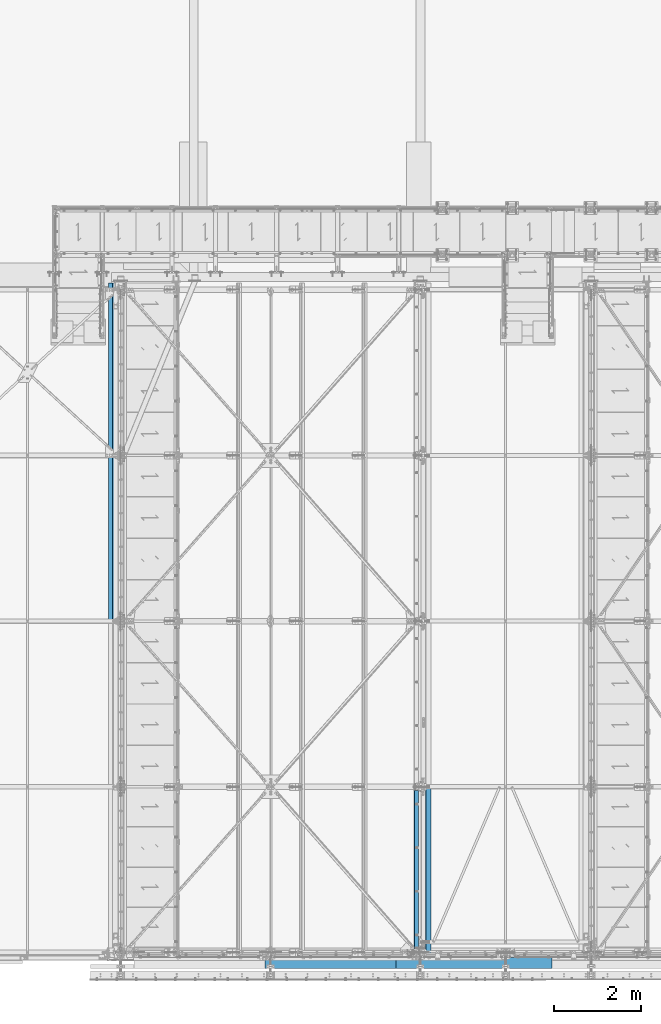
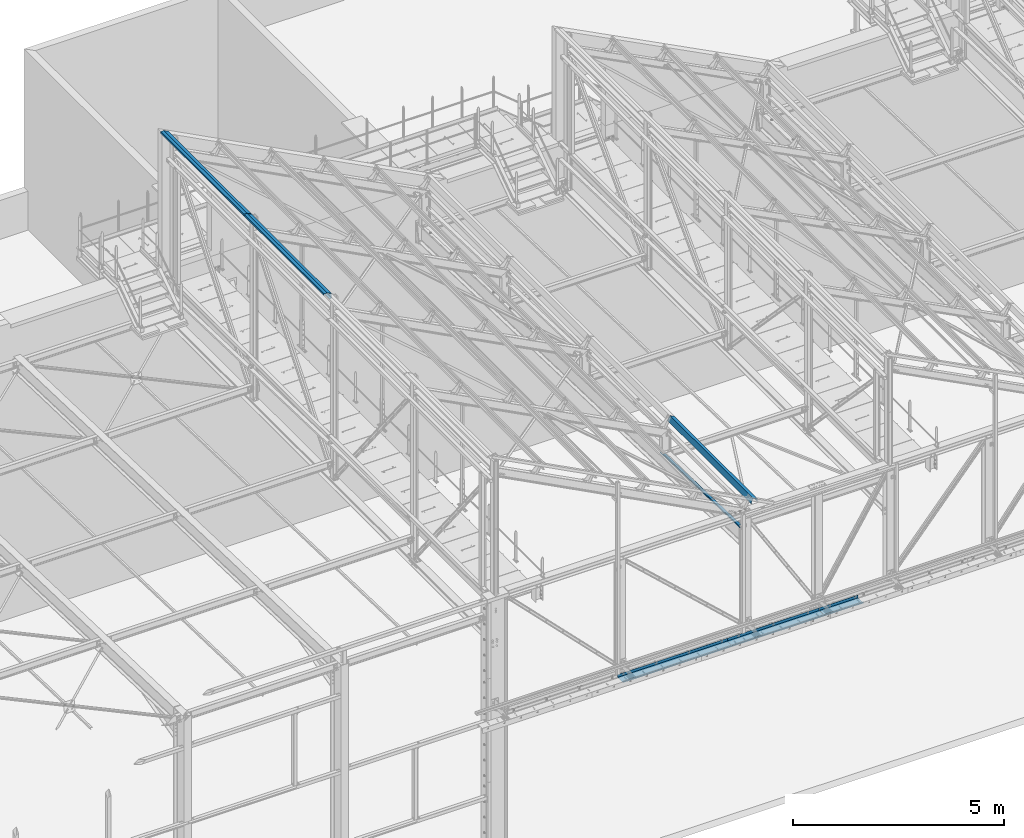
# One storey, part 345 of 362: 7 beams, 7 elements without a shape of their own.
"""IFC2X3 building model written with IfcOpenShell, lengths in millimetres."""

from ifc_helpers import new_model, si_unit, frame, origin_with_axes, place, context, subcontext, project, spatial, faceted_brep, material, type_object, element, aggregate, save


model = new_model("IFC2X3")

# Units and contexts
model_context = context("Model", 3, precision=1e-05, world=origin_with_axes())
body_context = subcontext(model_context, "Body", "Model", "MODEL_VIEW")
ifc_project = project(units=[si_unit("LENGTHUNIT", "METRE", prefix="MILLI"), si_unit("AREAUNIT", "SQUARE_METRE"), si_unit("VOLUMEUNIT", "CUBIC_METRE"), si_unit("MASSUNIT", "GRAM", prefix="KILO"), si_unit("TIMEUNIT", "SECOND"), si_unit("PLANEANGLEUNIT", "RADIAN"), si_unit("SOLIDANGLEUNIT", "STERADIAN"), si_unit("THERMODYNAMICTEMPERATUREUNIT", "DEGREE_CELSIUS"), si_unit("LUMINOUSINTENSITYUNIT", "LUMEN")], contexts=[model_context])

# Site, building, storey
site_placement = place(None, origin_with_axes())
site = spatial("IfcSite", under=ifc_project, at=site_placement, Name="Undefined", CompositionType="ELEMENT")
building_placement = place(site_placement, origin_with_axes())
building = spatial("IfcBuilding", under=site, at=building_placement, Name="Undefined", CompositionType="ELEMENT")
storey_placement = place(building_placement, origin_with_axes())
storey = spatial("IfcBuildingStorey", under=building, at=storey_placement, Name="Undefined", CompositionType="ELEMENT", Elevation=0.0)

# Assembly, beam
assembly_1_placement = place(storey_placement, origin_with_axes())
assembly_1 = element("IfcElementAssembly", 1, at=assembly_1_placement, inside=storey, Name="PANNE SHED", AssemblyPlace="NOTDEFINED", PredefinedType="NOTDEFINED")
ifc_material = material(Name="Undefined/S235-E24")
beam_type_1 = type_object("IfcBeamType", Name="PL3*3790", PredefinedType="NOTDEFINED")
beam_1_placement = place(assembly_1_placement, frame((12404.99999895, 9499.99999584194, 12628.7260697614), z_axis=(0.0, 1.0, 0.0), x_axis=(0.0, 0.0, 1.0)))
beam_1 = element("IfcBeam", 2, at=beam_1_placement, type_object=beam_type_1, material=ifc_material, Name="PANNE SHED", ObjectType="PL3*3790", context=body_context, shape_type="Brep", body=[
    faceted_brep([(-3.49427864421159e-08, -1.49999999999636, -1895.0), (-3.52956703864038e-08, -1.5, 1895.0), (3.49573383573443e-08, 1.5, 1895.0), (3.53102223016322e-08, 1.5, -1895.0), (47.0000011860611, 1.49999889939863, 1895.0), (47.0000011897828, 1.49999889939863, -1895.0), (50.0000011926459, -1.50000117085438, -1895.0), (50.0000011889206, -1.50000117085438, 1895.0), (47.0, 83.711228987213, 1895.0), (47.0, 83.711228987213, -1895.0), (50.0, 84.4485168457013, -1895.0), (50.0, 84.4485168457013, 1895.0), (-16.7103107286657, 205.5, 1895.0), (-16.7103107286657, 205.5, -1895.0), (-14.8939838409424, 208.5, -1895.0), (-14.8939838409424, 208.5, 1895.0), (-151.893997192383, 205.5, 1895.0), (-151.893997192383, 205.5, -1895.0), (-154.893997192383, 208.5, -1895.0), (-154.893997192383, 208.5, 1895.0), (-151.893997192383, 158.5, 1895.0), (-151.893997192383, 158.5, -1895.0), (-154.893997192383, 158.5, 1895.0), (-154.893997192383, 158.5, -1895.0)], [[[0, 1, 2, 3]], [[3, 2, 4, 5]], [[1, 0, 6, 7]], [[5, 4, 8, 9]], [[7, 6, 10, 11]], [[9, 8, 12, 13]], [[11, 10, 14, 15]], [[13, 12, 16, 17]], [[15, 14, 18, 19]], [[17, 16, 20, 21]], [[16, 12, 8, 4, 2, 1, 7, 11, 15, 19, 22, 20]], [[19, 18, 23, 22]], [[18, 14, 10, 6, 0, 3, 5, 9, 13, 17, 21, 23]], [[22, 23, 21, 20]]]),
])
aggregate(assembly_1, [beam_1])

assembly_2_placement = place(storey_placement, origin_with_axes())
assembly_2 = element("IfcElementAssembly", 3, at=assembly_2_placement, inside=storey, Name="SUPPORT", AssemblyPlace="NOTDEFINED", PredefinedType="NOTDEFINED")
beam_type_2 = type_object("IfcBeamType", Name="PL3*1055", PredefinedType="NOTDEFINED")
beam_2_placement = place(assembly_2_placement, frame((22042.5, -111.5, 5080.00085614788), z_axis=(1.0, 0.0, 0.0), x_axis=(0.0, 0.0, -1.0)))
beam_2 = element("IfcBeam", 4, at=beam_2_placement, type_object=beam_type_2, material=ifc_material, Name="SUPPORT CHARGE BARDAG", ObjectType="PL3*1055", context=body_context, shape_type="Brep", body=[
    faceted_brep([(0.0, -1.5, -527.5), (0.0, -1.5, 527.5), (0.0, 1.5, 527.5), (0.0, 1.5, -527.5), (80.0, 1.5, 527.5), (80.0, 1.5, -527.5), (77.0, -1.5, -527.5), (77.0, -1.5, 527.5), (80.0, -258.5, 527.5), (80.0, -258.5, -527.5), (77.0, -255.5, -527.5), (77.0, -255.5, 527.5), (30.0000019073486, -258.5, 527.5), (30.0000019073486, -258.5, -527.5), (30.0000019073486, -255.5, 527.5), (30.0000019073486, -255.5, -527.5)], [[[0, 1, 2, 3]], [[3, 2, 4, 5]], [[1, 0, 6, 7]], [[5, 4, 8, 9]], [[7, 6, 10, 11]], [[9, 8, 12, 13]], [[8, 4, 2, 1, 7, 11, 14, 12]], [[11, 10, 15, 14]], [[10, 6, 0, 3, 5, 9, 13, 15]], [[14, 15, 13, 12]]]),
])
aggregate(assembly_2, [beam_2])

assembly_3_placement = place(storey_placement, origin_with_axes())
assembly_3 = element("IfcElementAssembly", 5, at=assembly_3_placement, inside=storey, Name="SUPPORT", AssemblyPlace="NOTDEFINED", PredefinedType="NOTDEFINED")
beam_type_3 = type_object("IfcBeamType", Name="PL3*3000", PredefinedType="NOTDEFINED")
beam_3_placement = place(assembly_3_placement, frame((17489.9999999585, -111.5, 5080.00085614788), z_axis=(1.0, 0.0, 0.0), x_axis=(0.0, 0.0, -1.0)))
beam_3 = element("IfcBeam", 6, at=beam_3_placement, type_object=beam_type_3, material=ifc_material, Name="SUPPORT CHARGE BARDAG", ObjectType="PL3*3000", context=body_context, shape_type="Brep", body=[
    faceted_brep([(0.0, -1.5, -1500.0), (0.0, -1.5, 1500.0), (0.0, 1.5, 1500.0), (0.0, 1.5, -1500.0), (80.0, 1.5, 1500.0), (80.0, 1.5, -1500.0), (77.0, -1.5, -1500.0), (77.0, -1.5, 1500.0), (80.0, -258.5, 1500.0), (80.0, -258.5, -1500.0), (77.0, -255.5, -1500.0), (77.0, -255.5, 1500.0), (30.0000019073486, -258.5, 1500.0), (30.0000019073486, -258.5, -1500.0), (30.0000019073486, -255.5, 1500.0), (30.0000019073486, -255.5, -1500.0)], [[[0, 1, 2, 3]], [[3, 2, 4, 5]], [[1, 0, 6, 7]], [[5, 4, 8, 9]], [[7, 6, 10, 11]], [[9, 8, 12, 13]], [[8, 4, 2, 1, 7, 11, 14, 12]], [[11, 10, 15, 14]], [[10, 6, 0, 3, 5, 9, 13, 15]], [[14, 15, 13, 12]]]),
])
aggregate(assembly_3, [beam_3])

assembly_4_placement = place(storey_placement, origin_with_axes())
assembly_4 = element("IfcElementAssembly", 7, at=assembly_4_placement, inside=storey, Name="SUPPORT", AssemblyPlace="NOTDEFINED", PredefinedType="NOTDEFINED")
beam_type_4 = type_object("IfcBeamType", Name="PL3*2515", PredefinedType="NOTDEFINED")
beam_4_placement = place(assembly_4_placement, frame((20247.4999999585, -111.5, 5080.00085614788), z_axis=(1.0, 0.0, 0.0), x_axis=(0.0, 0.0, -1.0)))
beam_4 = element("IfcBeam", 8, at=beam_4_placement, type_object=beam_type_4, material=ifc_material, Name="SUPPORT CHARGE BARDAG", ObjectType="PL3*2515", context=body_context, shape_type="Brep", body=[
    faceted_brep([(0.0, -1.5, -1257.5), (0.0, -1.5, 1257.5), (0.0, 1.5, 1257.5), (0.0, 1.5, -1257.5), (80.0, 1.5, 1257.5), (80.0, 1.5, -1257.5), (77.0, -1.5, -1257.5), (77.0, -1.5, 1257.5), (80.0, -258.5, 1257.5), (80.0, -258.5, -1257.5), (77.0, -255.5, -1257.5), (77.0, -255.5, 1257.5), (30.0000019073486, -258.5, 1257.5), (30.0000019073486, -258.5, -1257.5), (30.0000019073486, -255.5, 1257.5), (30.0000019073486, -255.5, -1257.5)], [[[0, 1, 2, 3]], [[3, 2, 4, 5]], [[1, 0, 6, 7]], [[5, 4, 8, 9]], [[7, 6, 10, 11]], [[9, 8, 12, 13]], [[8, 4, 2, 1, 7, 11, 14, 12]], [[11, 10, 15, 14]], [[10, 6, 0, 3, 5, 9, 13, 15]], [[14, 15, 13, 12]]]),
])
aggregate(assembly_4, [beam_4])

assembly_5_placement = place(storey_placement, origin_with_axes())
assembly_5 = element("IfcElementAssembly", 9, at=assembly_5_placement, inside=storey, Name="POUTRE", AssemblyPlace="NOTDEFINED", PredefinedType="NOTDEFINED")
beam_type_5 = type_object("IfcBeamType", Name="PL2*4000", PredefinedType="NOTDEFINED")
beam_5_placement = place(assembly_5_placement, frame((19509.9999999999, 1899.71695009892, 7991.29997216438), z_axis=(3.14103090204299e-11, 0.999506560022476, -0.0314107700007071), x_axis=(-1.0, 0.0, 0.0)))
beam_5 = element("IfcBeam", 10, at=beam_5_placement, type_object=beam_type_5, material=ifc_material, Name="POUTRE", ObjectType="PL2*4000", context=body_context, shape_type="Brep", body=[
    faceted_brep([(84.9999999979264, 0.999999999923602, 1895.93800542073), (84.9999999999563, 0.999999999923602, 1815.93800543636), (84.9999999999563, -1.00000000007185, 1815.93800543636), (84.9999999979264, -1.00000000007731, 1895.93800542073), (7.27595761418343e-12, 1.00000000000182, 1815.93800543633), (0.0, -0.999999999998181, 1815.93800543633), (97.9999999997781, 39.0000003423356, -1895.93800544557), (97.9999999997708, 0.999999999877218, -1895.93800544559), (97.9999999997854, 0.999999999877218, 1895.93800542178), (97.9999999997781, 39.0000003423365, 1895.9380054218), (99.9999999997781, 39.0000003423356, -1895.93800544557), (99.9999999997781, 39.0000003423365, 1895.9380054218), (99.9999999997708, -1.00000000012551, -1895.93800544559), (99.9999999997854, -1.0000000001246, 1895.93800542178), (85.0000000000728, -1.00000000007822, -1895.93800544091), (85.0000000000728, 0.999999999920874, -1895.9380054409), (84.9999999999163, -1.00000000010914, -1775.9380054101), (84.9999999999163, 0.999999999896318, -1775.93800948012), (0.0, 1.00000000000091, -1775.93800948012), (-3.63797880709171e-12, -1.0, -1775.9380054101)], [[[0, 1, 2, 3]], [[4, 5, 2, 1]], [[6, 7, 8, 9]], [[10, 6, 9, 11]], [[12, 10, 11, 13]], [[7, 6, 10, 12, 14, 15]], [[15, 14, 16, 17]], [[18, 17, 16, 19]], [[0, 8, 7, 15, 17, 18, 4, 1]], [[13, 11, 9, 8, 0, 3]], [[19, 16, 14, 12, 13, 3, 2, 5]], [[18, 19, 5, 4]]]),
])
aggregate(assembly_5, [beam_5])

assembly_6_placement = place(storey_placement, origin_with_axes())
assembly_6 = element("IfcElementAssembly", 11, at=assembly_6_placement, inside=storey, Name="PANNE SHED", AssemblyPlace="NOTDEFINED", PredefinedType="NOTDEFINED")
beam_type_6 = type_object("IfcBeamType", Name="PL3*3950", PredefinedType="NOTDEFINED")
beam_6_placement = place(assembly_6_placement, frame((19656.0539262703, 1820.00010459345, 8773.41543702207), z_axis=(0.0, 1.0, 0.0), x_axis=(-0.886081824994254, 0.0, 0.463528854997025)))
beam_6 = element("IfcBeam", 12, at=beam_6_placement, type_object=beam_type_6, material=ifc_material, Name="PANNE SHED", ObjectType="PL3*3950", context=body_context, shape_type="Brep", body=[
    faceted_brep([(-4.57112037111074e-09, -1.5, -1975.0), (-2.82489054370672e-09, -1.49999999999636, 1975.0), (4.56748239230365e-09, 1.50000000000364, 1975.0), (2.82125256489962e-09, 1.5, -1975.0), (46.9999982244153, 1.49999988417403, 1974.99999999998), (46.9999982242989, 1.49999988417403, -1975.00000000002), (49.9999982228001, -1.50000012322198, -1975.00000000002), (49.9999982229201, -1.50000012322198, 1974.99999999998), (46.999998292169, 135.499998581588, 1975.00000000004), (46.9999982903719, 135.499998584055, -1974.99999999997), (49.9999982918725, 138.499998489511, -1974.99999999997), (49.9999982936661, 138.499998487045, 1975.00000000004), (-88.1836776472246, 135.500002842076, 1975.00000000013), (-88.1836776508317, 135.500002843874, -1974.99999999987), (-90.0000045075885, 138.50000290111, -1974.99999999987), (-90.0000045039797, 138.500002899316, 1975.00000000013), (-124.424035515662, 66.2228546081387, 1975.00000000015), (-124.424035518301, 66.2228546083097, -1974.99999999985), (-127.082281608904, 67.6134399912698, 1975.00000000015), (-127.08228161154, 67.6134399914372, -1974.99999999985)], [[[0, 1, 2, 3]], [[3, 2, 4, 5]], [[1, 0, 6, 7]], [[5, 4, 8, 9]], [[7, 6, 10, 11]], [[9, 8, 12, 13]], [[11, 10, 14, 15]], [[13, 12, 16, 17]], [[12, 8, 4, 2, 1, 7, 11, 15, 18, 16]], [[15, 14, 19, 18]], [[14, 10, 6, 0, 3, 5, 9, 13, 17, 19]], [[18, 19, 17, 16]]]),
])
aggregate(assembly_6, [beam_6])

assembly_7_placement = place(storey_placement, origin_with_axes())
assembly_7 = element("IfcElementAssembly", 13, at=assembly_7_placement, inside=storey, Name="PANNE SHED", AssemblyPlace="NOTDEFINED", PredefinedType="NOTDEFINED")
beam_7_placement = place(assembly_7_placement, frame((12404.99999895, 13379.9999958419, 12628.7260697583), z_axis=(0.0, 1.0, 0.0), x_axis=(0.0, 0.0, 1.0)))
beam_7 = element("IfcBeam", 14, at=beam_7_placement, type_object=beam_type_6, material=ifc_material, Name="PANNE SHED", ObjectType="PL3*3950", context=body_context, shape_type="Brep", body=[
    faceted_brep([(-4.57112037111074e-09, -1.5, -1975.0), (-2.82489054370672e-09, -1.49999999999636, 1975.0), (4.56748239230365e-09, 1.50000000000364, 1975.0), (2.82125256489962e-09, 1.5, -1975.0), (46.9999982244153, 1.49999988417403, 1974.99999999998), (46.9999982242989, 1.49999988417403, -1975.00000000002), (49.9999982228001, -1.50000012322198, -1975.00000000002), (49.9999982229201, -1.50000012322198, 1974.99999999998), (47.0, 83.711228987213, 1975.0), (47.0, 83.711228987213, -1975.0), (50.0, 84.4485168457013, -1975.0), (50.0, 84.4485168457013, 1975.0), (-16.7103107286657, 205.5, 1975.0), (-16.7103107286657, 205.5, -1975.0), (-14.8939838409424, 208.5, -1975.0), (-14.8939838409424, 208.5, 1975.0), (-151.893997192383, 205.5, 1975.0), (-151.893997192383, 205.5, -1975.0), (-154.893997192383, 208.5, -1975.0), (-154.893997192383, 208.5, 1975.0), (-151.893997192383, 158.5, 1975.0), (-151.893997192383, 158.5, -1975.0), (-154.893997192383, 158.5, 1975.0), (-154.893997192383, 158.5, -1975.0)], [[[0, 1, 2, 3]], [[3, 2, 4, 5]], [[1, 0, 6, 7]], [[5, 4, 8, 9]], [[7, 6, 10, 11]], [[9, 8, 12, 13]], [[11, 10, 14, 15]], [[13, 12, 16, 17]], [[15, 14, 18, 19]], [[17, 16, 20, 21]], [[16, 12, 8, 4, 2, 1, 7, 11, 15, 19, 22, 20]], [[19, 18, 23, 22]], [[18, 14, 10, 6, 0, 3, 5, 9, 13, 17, 21, 23]], [[22, 23, 21, 20]]]),
])
aggregate(assembly_7, [beam_7])

save(model, "model.ifc")
